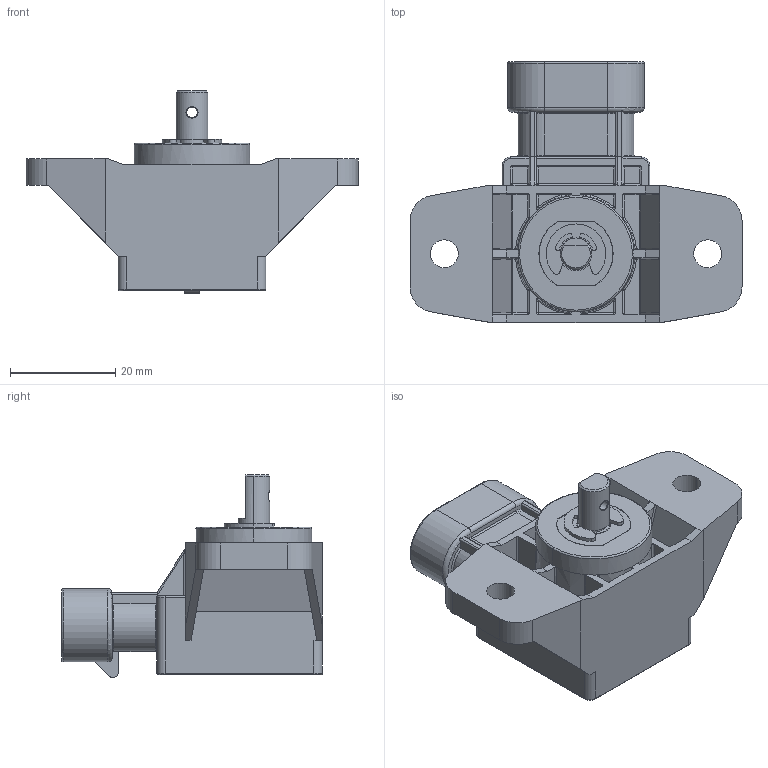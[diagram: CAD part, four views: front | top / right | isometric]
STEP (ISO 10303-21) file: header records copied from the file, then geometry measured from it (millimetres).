
FILE_DESCRIPTION (( 'STEP AP203' ), '1' );
FILE_NAME ('GR3PA S5H2HS xxx xxxx X0.STEP', '2024-12-19T15:25:34', ( '' ), ( '' ), 'SwSTEP 2.0', 'SolidWorks 2024', '' );
FILE_SCHEMA (( 'CONFIG_CONTROL_DESIGN' ));
Length unit declared in the file: millimetre
Products named in the file (1): GR3PA S5H2HS xxx xxxx X0
Bounding box: 63 x 49.5 x 38.47 mm (x, y, z)
Volume: 25601 mm3; surface area: 12807.9 mm2
Topology: 7 solids, 7 shells, 528 faces, 1298 edges, 767 vertices
Faces by surface type: plane 213, cylinder 180, bspline 46, sphere 40, torus 36, cone 13
Entity records: 17992 total; most frequent: CARTESIAN_POINT 5886, ORIENTED_EDGE 2524, DIRECTION 2493, EDGE_CURVE 1262, AXIS2_PLACEMENT_3D 909, VERTEX_POINT 767, VECTOR 675, LINE 675
